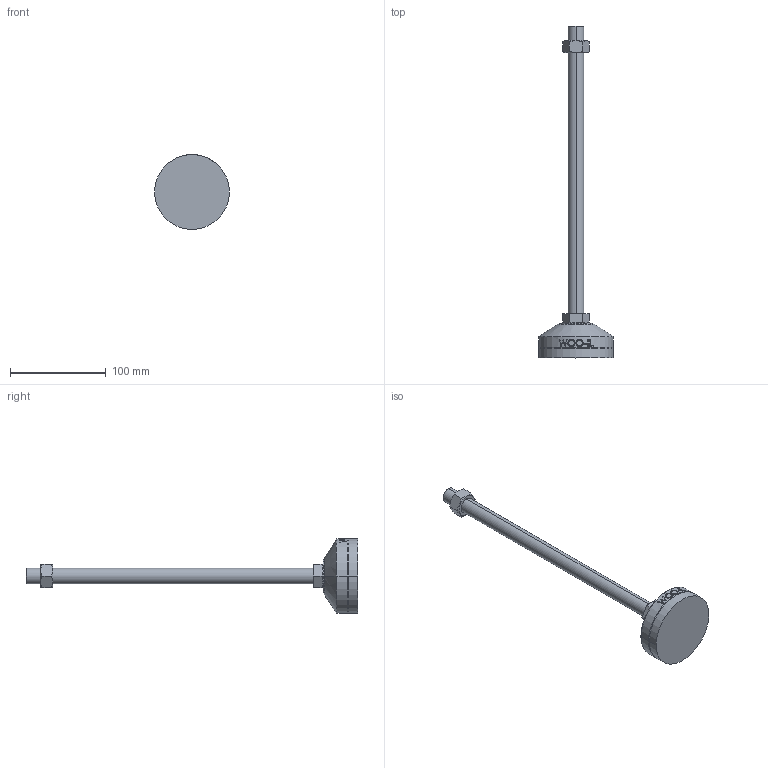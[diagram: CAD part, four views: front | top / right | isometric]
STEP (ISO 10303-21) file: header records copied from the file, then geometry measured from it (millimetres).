
FILE_DESCRIPTION (( 'STEP AP214' ), '1' );
FILE_NAME ('MFR78-M16-300.step', '2021-01-13T05:38:04', ( '' ), ( '' ), 'SwSTEP 2.0', 'SolidWorks 2019', '' );
FILE_SCHEMA (( 'AUTOMOTIVE_DESIGN' ));
Length unit declared in the file: millimetre
Products named in the file (2): MFR78-M16-300
Bounding box: 78 x 346 x 78 mm (x, y, z)
Volume: 212259.2 mm3; surface area: 44352.7 mm2
Topology: 4 solids, 4 shells, 103 faces, 235 edges, 150 vertices
Faces by surface type: plane 49, cylinder 18, bspline 16, cone 14, torus 6
Entity records: 4435 total; most frequent: CARTESIAN_POINT 2162, ORIENTED_EDGE 470, DIRECTION 417, EDGE_CURVE 235, AXIS2_PLACEMENT_3D 159, VERTEX_POINT 150, EDGE_LOOP 115, ADVANCED_FACE 103
